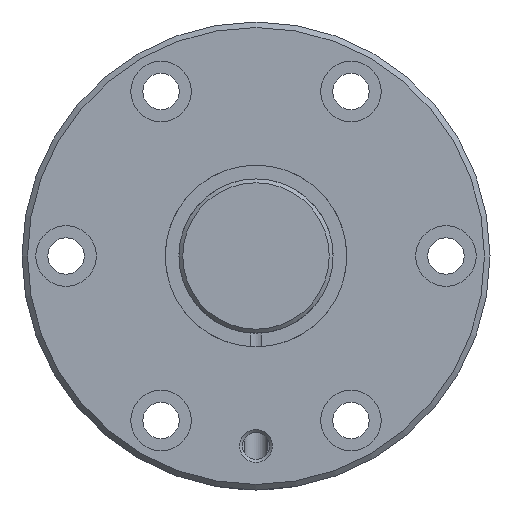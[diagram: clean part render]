
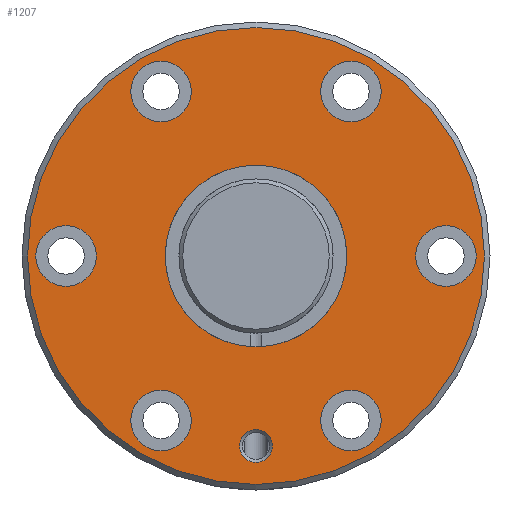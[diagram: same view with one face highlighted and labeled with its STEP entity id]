
A CAD part, left-side view. The second image highlights one B-rep face of the part: STEP entity #1207.
In plain terms, the highlighted planar face has unit normal (-1, 0, 0).
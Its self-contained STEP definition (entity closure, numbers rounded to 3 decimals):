
#219=ORIENTED_EDGE('',*,*,#481,.T.);
#220=ORIENTED_EDGE('',*,*,#505,.T.);
#221=ORIENTED_EDGE('',*,*,#506,.T.);
#222=ORIENTED_EDGE('',*,*,#507,.T.);
#223=ORIENTED_EDGE('',*,*,#508,.T.);
#224=ORIENTED_EDGE('',*,*,#509,.T.);
#225=ORIENTED_EDGE('',*,*,#510,.T.);
#226=ORIENTED_EDGE('',*,*,#511,.T.);
#227=ORIENTED_EDGE('',*,*,#504,.F.);
#481=EDGE_CURVE('',#628,#628,#736,.T.);
#504=EDGE_CURVE('',#651,#651,#739,.T.);
#505=EDGE_CURVE('',#652,#652,#740,.F.);
#506=EDGE_CURVE('',#653,#653,#741,.T.);
#507=EDGE_CURVE('',#654,#654,#742,.T.);
#508=EDGE_CURVE('',#655,#655,#743,.T.);
#509=EDGE_CURVE('',#656,#656,#744,.T.);
#510=EDGE_CURVE('',#657,#657,#745,.T.);
#511=EDGE_CURVE('',#658,#658,#746,.T.);
#628=VERTEX_POINT('',#2023);
#651=VERTEX_POINT('',#2121);
#652=VERTEX_POINT('',#2124);
#653=VERTEX_POINT('',#2126);
#654=VERTEX_POINT('',#2128);
#655=VERTEX_POINT('',#2130);
#656=VERTEX_POINT('',#2132);
#657=VERTEX_POINT('',#2134);
#658=VERTEX_POINT('',#2136);
#736=CIRCLE('',#1328,16.5);
#739=CIRCLE('',#1335,41.5);
#740=CIRCLE('',#1337,5.5);
#741=CIRCLE('',#1338,3.);
#742=CIRCLE('',#1339,5.5);
#743=CIRCLE('',#1340,5.5);
#744=CIRCLE('',#1341,5.5);
#745=CIRCLE('',#1342,5.5);
#746=CIRCLE('',#1343,5.5);
#854=EDGE_LOOP('',(#219));
#855=EDGE_LOOP('',(#220));
#856=EDGE_LOOP('',(#221));
#857=EDGE_LOOP('',(#222));
#858=EDGE_LOOP('',(#223));
#859=EDGE_LOOP('',(#224));
#860=EDGE_LOOP('',(#225));
#861=EDGE_LOOP('',(#226));
#862=EDGE_LOOP('',(#227));
#1018=FACE_BOUND('',#854,.T.);
#1019=FACE_BOUND('',#855,.T.);
#1020=FACE_BOUND('',#856,.T.);
#1021=FACE_BOUND('',#857,.T.);
#1022=FACE_BOUND('',#858,.T.);
#1023=FACE_BOUND('',#859,.T.);
#1024=FACE_BOUND('',#860,.T.);
#1025=FACE_BOUND('',#861,.T.);
#1026=FACE_BOUND('',#862,.T.);
#1157=PLANE('',#1336);
#1207=ADVANCED_FACE('',(#1018,#1019,#1020,#1021,#1022,#1023,#1024,#1025,
#1026),#1157,.T.);
#1328=AXIS2_PLACEMENT_3D('',#2022,#1544,#1545);
#1335=AXIS2_PLACEMENT_3D('',#2120,#1574,#1575);
#1336=AXIS2_PLACEMENT_3D('',#2122,#1576,#1577);
#1337=AXIS2_PLACEMENT_3D('',#2123,#1578,#1579);
#1338=AXIS2_PLACEMENT_3D('',#2125,#1580,#1581);
#1339=AXIS2_PLACEMENT_3D('',#2127,#1582,#1583);
#1340=AXIS2_PLACEMENT_3D('',#2129,#1584,#1585);
#1341=AXIS2_PLACEMENT_3D('',#2131,#1586,#1587);
#1342=AXIS2_PLACEMENT_3D('',#2133,#1588,#1589);
#1343=AXIS2_PLACEMENT_3D('',#2135,#1590,#1591);
#1544=DIRECTION('',(1.,0.,0.));
#1545=DIRECTION('',(0.,0.,-1.));
#1574=DIRECTION('',(1.,0.,0.));
#1575=DIRECTION('',(0.,0.,-1.));
#1576=DIRECTION('',(-1.,0.,0.));
#1577=DIRECTION('',(0.,0.,1.));
#1578=DIRECTION('',(-1.,0.,0.));
#1579=DIRECTION('',(0.,0.,1.));
#1580=DIRECTION('',(1.,0.,0.));
#1581=DIRECTION('',(0.,0.,-1.));
#1582=DIRECTION('',(1.,0.,0.));
#1583=DIRECTION('',(0.,0.,-1.));
#1584=DIRECTION('',(1.,0.,0.));
#1585=DIRECTION('',(0.,0.,-1.));
#1586=DIRECTION('',(1.,0.,0.));
#1587=DIRECTION('',(0.,0.,-1.));
#1588=DIRECTION('',(1.,0.,0.));
#1589=DIRECTION('',(0.,0.,-1.));
#1590=DIRECTION('',(1.,0.,0.));
#1591=DIRECTION('',(0.,0.,-1.));
#2022=CARTESIAN_POINT('',(0.,0.,0.));
#2023=CARTESIAN_POINT('',(0.,0.,-16.5));
#2120=CARTESIAN_POINT('',(0.,0.,0.));
#2121=CARTESIAN_POINT('',(0.,0.,-41.5));
#2122=CARTESIAN_POINT('',(0.,41.5,0.));
#2123=CARTESIAN_POINT('',(0.,34.5,0.));
#2124=CARTESIAN_POINT('',(0.,34.5,5.5));
#2125=CARTESIAN_POINT('',(0.,0.,-34.5));
#2126=CARTESIAN_POINT('',(0.,0.,-37.5));
#2127=CARTESIAN_POINT('',(0.,17.25,29.878));
#2128=CARTESIAN_POINT('',(0.,17.25,24.378));
#2129=CARTESIAN_POINT('',(0.,-17.25,-29.878));
#2130=CARTESIAN_POINT('',(0.,-17.25,-35.378));
#2131=CARTESIAN_POINT('',(0.,-17.25,29.878));
#2132=CARTESIAN_POINT('',(0.,-17.25,24.378));
#2133=CARTESIAN_POINT('',(0.,17.25,-29.878));
#2134=CARTESIAN_POINT('',(0.,17.25,-35.378));
#2135=CARTESIAN_POINT('',(0.,-34.5,0.));
#2136=CARTESIAN_POINT('',(0.,-34.5,-5.5));
